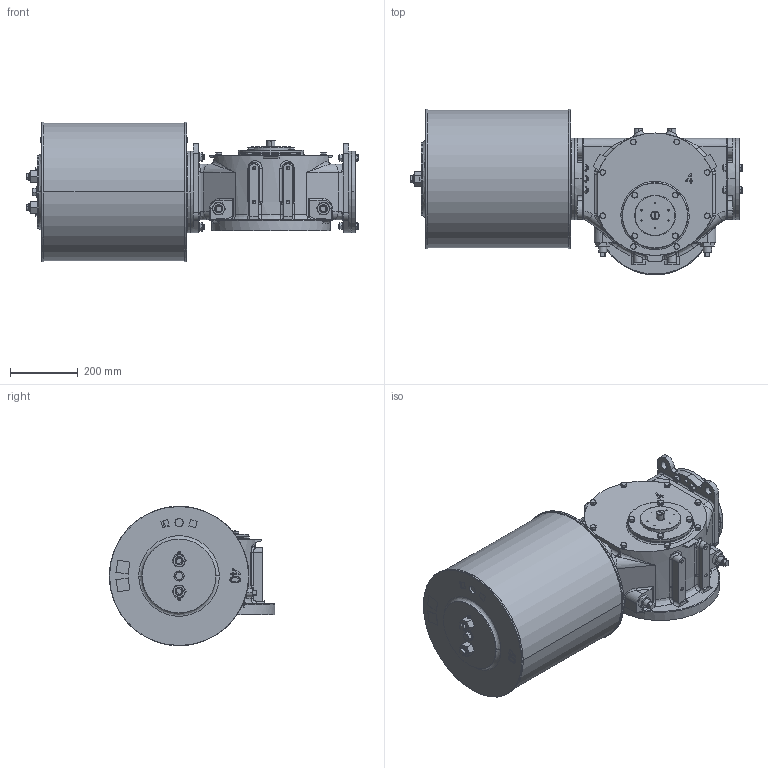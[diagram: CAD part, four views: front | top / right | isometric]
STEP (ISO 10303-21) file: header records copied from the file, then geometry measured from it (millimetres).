
FILE_DESCRIPTION (( 'STEP AP203' ), '1' );
FILE_NAME ('VTS4-400.STEP', '2023-01-01T09:31:08', ( '' ), ( '' ), 'SwSTEP 2.0', 'SolidWorks 2020', '' );
FILE_SCHEMA (( 'CONFIG_CONTROL_DESIGN' ));
Length unit declared in the file: millimetre
Products named in the file (1): VTS4-400
Bounding box: 981.68 x 489.5 x 413 mm (x, y, z)
Volume: 85842711.8 mm3; surface area: 1786972.4 mm2
Topology: 1 solids, 16 shells, 1726 faces, 4425 edges, 2796 vertices
Faces by surface type: plane 763, cylinder 504, cone 357, bspline 100, torus 2
Entity records: 64509 total; most frequent: CARTESIAN_POINT 23492, ORIENTED_EDGE 8754, DIRECTION 8420, EDGE_CURVE 4377, AXIS2_PLACEMENT_3D 3278, VERTEX_POINT 2796, EDGE_LOOP 1905, LINE 1864
